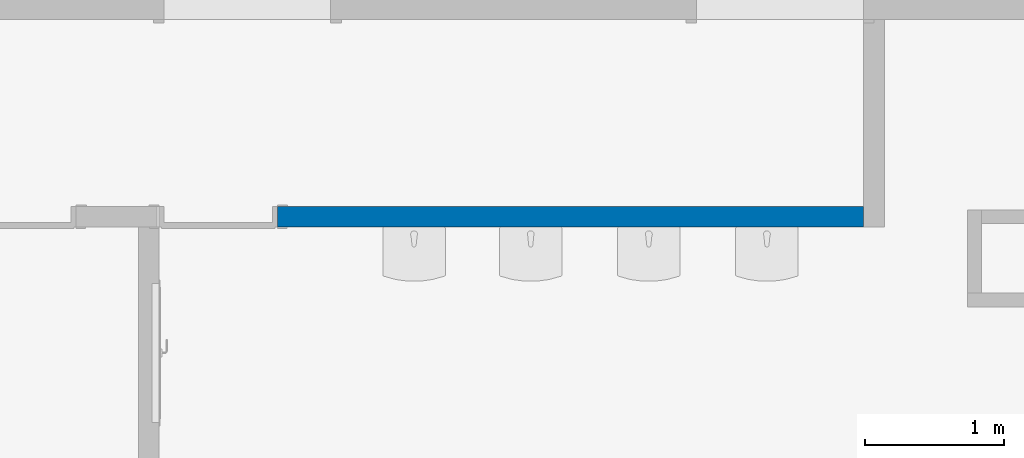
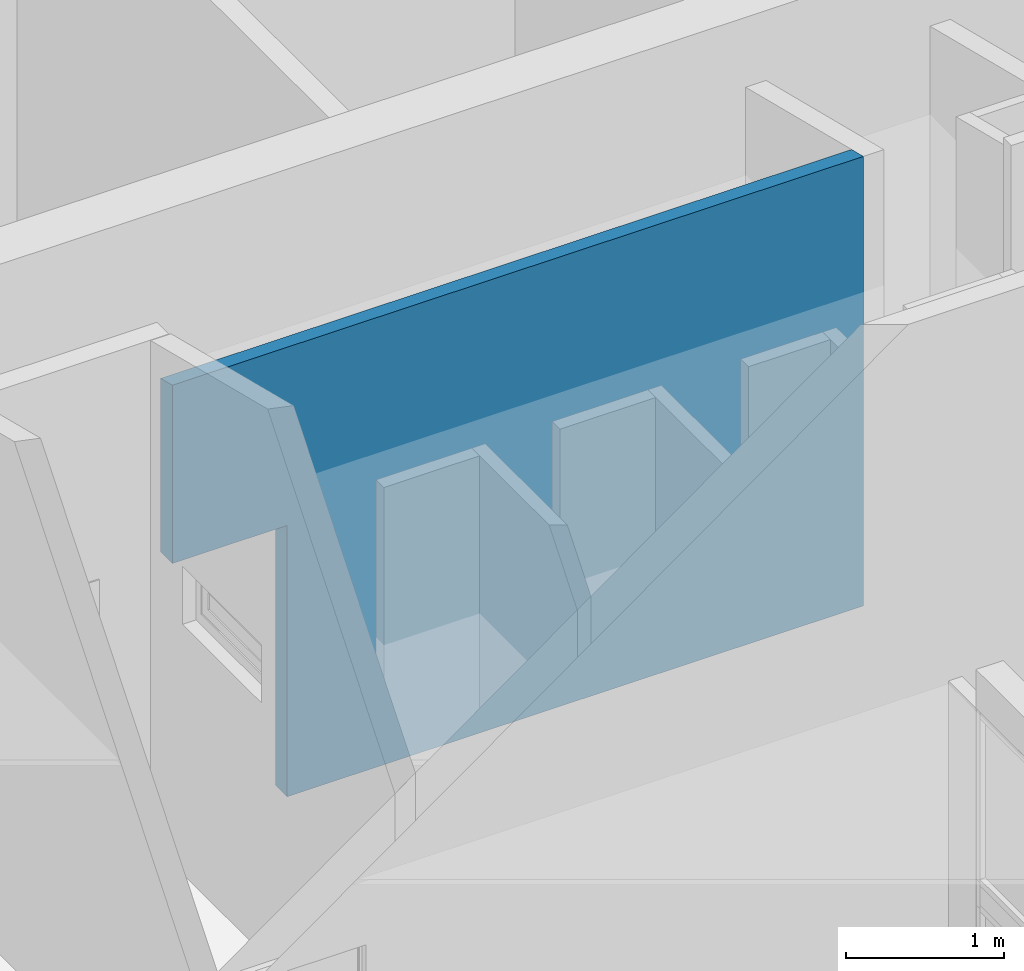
# One storey, part 130 of 153: 1 wall, 1 opening.
"""IFC4 building model written with IfcOpenShell, lengths in metres."""

from ifc_helpers import new_model, entity, si_unit, converted_unit, derived_unit, direction, frame, origin, place, context, subcontext, project, spatial, indexed_curve, outline, extrude, polygons, material, type_object, element, save


model = new_model("IFC4")

# Units and contexts
model_context = context("Model", 3, precision=1e-05, world=origin(), true_north=direction((6.123031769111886e-17, 1.0)))
body_context = subcontext(model_context, "Body", "Model", "MODEL_VIEW")
ifc_project = project(units=[si_unit("LENGTHUNIT", "METRE"), si_unit("AREAUNIT", "SQUARE_METRE"), si_unit("VOLUMEUNIT", "CUBIC_METRE"), converted_unit("PLANEANGLEUNIT", "DEGREE", entity("IfcRatioMeasure", 0.017453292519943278), si_unit("PLANEANGLEUNIT", "RADIAN"), dimensions=[0, 0, 0, 0, 0, 0, 0]), si_unit("MASSUNIT", "GRAM", prefix="KILO"), derived_unit("MASSDENSITYUNIT", [(si_unit("MASSUNIT", "GRAM", prefix="KILO"), 1), (si_unit("LENGTHUNIT", "METRE"), -3)]), derived_unit("MOMENTOFINERTIAUNIT", [(si_unit("LENGTHUNIT", "METRE"), 4)]), si_unit("TIMEUNIT", "SECOND"), si_unit("FREQUENCYUNIT", "HERTZ"), si_unit("THERMODYNAMICTEMPERATUREUNIT", "DEGREE_CELSIUS"), derived_unit("THERMALTRANSMITTANCEUNIT", [(si_unit("MASSUNIT", "GRAM", prefix="KILO"), 1), (si_unit("THERMODYNAMICTEMPERATUREUNIT", "KELVIN"), -1), (si_unit("TIMEUNIT", "SECOND"), -3)]), derived_unit("VOLUMETRICFLOWRATEUNIT", [(si_unit("LENGTHUNIT", "METRE"), 3), (si_unit("TIMEUNIT", "SECOND"), -1)]), derived_unit("MASSFLOWRATEUNIT", [(si_unit("MASSUNIT", "GRAM", prefix="KILO"), 1), (si_unit("TIMEUNIT", "SECOND"), -1)]), derived_unit("ROTATIONALFREQUENCYUNIT", [(si_unit("TIMEUNIT", "SECOND"), -1)]), si_unit("ELECTRICCURRENTUNIT", "AMPERE"), si_unit("ELECTRICVOLTAGEUNIT", "VOLT"), si_unit("POWERUNIT", "WATT"), si_unit("FORCEUNIT", "NEWTON", prefix="KILO"), si_unit("ILLUMINANCEUNIT", "LUX"), si_unit("LUMINOUSFLUXUNIT", "LUMEN"), si_unit("LUMINOUSINTENSITYUNIT", "CANDELA"), derived_unit("USERDEFINED", [(si_unit("MASSUNIT", "GRAM", prefix="KILO"), -1), (si_unit("LENGTHUNIT", "METRE"), -2), (si_unit("TIMEUNIT", "SECOND"), 3), (si_unit("LUMINOUSFLUXUNIT", "LUMEN"), 1)]), derived_unit("SOUNDPOWERUNIT", [(si_unit("MASSUNIT", "GRAM", prefix="KILO"), 1), (si_unit("LENGTHUNIT", "METRE"), 2), (si_unit("TIMEUNIT", "SECOND"), -3)]), derived_unit("SOUNDPRESSUREUNIT", [(si_unit("MASSUNIT", "GRAM", prefix="KILO"), 1), (si_unit("LENGTHUNIT", "METRE"), -1), (si_unit("TIMEUNIT", "SECOND"), -2)]), derived_unit("LINEARVELOCITYUNIT", [(si_unit("LENGTHUNIT", "METRE"), 1), (si_unit("TIMEUNIT", "SECOND"), -1)]), si_unit("PRESSUREUNIT", "PASCAL"), derived_unit("USERDEFINED", [(si_unit("LENGTHUNIT", "METRE"), -2), (si_unit("MASSUNIT", "GRAM", prefix="KILO"), 1), (si_unit("TIMEUNIT", "SECOND"), -2)]), derived_unit("LINEARFORCEUNIT", [(si_unit("MASSUNIT", "GRAM", prefix="KILO"), 1), (si_unit("LENGTHUNIT", "METRE"), 1), (si_unit("TIMEUNIT", "SECOND"), -2), (si_unit("LENGTHUNIT", "METRE"), -1)]), derived_unit("PLANARFORCEUNIT", [(si_unit("MASSUNIT", "GRAM", prefix="KILO"), 1), (si_unit("LENGTHUNIT", "METRE"), 1), (si_unit("TIMEUNIT", "SECOND"), -2), (si_unit("LENGTHUNIT", "METRE"), -2)])], contexts=[model_context])

# Site, building, storey
site_placement = place(None, origin())
site = spatial("IfcSite", under=ifc_project, at=site_placement, Name="Superficie", CompositionType="ELEMENT")
building_placement = place(site_placement, origin())
building = spatial("IfcBuilding", under=site, at=building_placement, CompositionType="ELEMENT")
storey_placement = place(building_placement, frame((0.0, 0.0, 3.5999999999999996)))
storey = spatial("IfcBuildingStorey", under=building, at=storey_placement, Name="Nivel 1", CompositionType="ELEMENT", Elevation=3.5999999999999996)

# Wall, opening
ifc_material = material(Name="Muro por defecto", Category="Varios")
wall_type = type_object("IfcWallType", Name="Muro básico:Por defecto - 15 cm 2", PredefinedType="STANDARD")
wall_placement = place(storey_placement, frame((11.801001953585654, 8.95082928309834, 0.5200000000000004), z_axis=(0.0, 0.0, 1.0), x_axis=(-1.0, 0.0, 0.0)))
wall = element("IfcWall", 1, at=wall_placement, inside=storey, type_object=wall_type, material=ifc_material, Name="Muro básico:Por defecto - 15 cm 2", ObjectType="Muro básico:Por defecto - 15 cm 2", PredefinedType="NOTDEFINED", context=body_context, shape_type="Tessellation", body=[
    polygons([(7.52411795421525e-16, -0.07499999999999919, 3.4429790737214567), (7.52411795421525e-16, -0.07499999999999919, -5.414335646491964e-16), (4.220000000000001, -0.07499999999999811, -5.414335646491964e-16), (4.220000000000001, -0.07499999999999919, 2.0999999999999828), (5.0600000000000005, -0.07499999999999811, 2.0999999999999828), (5.0600000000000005, -0.07499999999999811, 3.4429790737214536), (2.3601562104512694e-16, 0.07500000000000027, -5.414335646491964e-16), (2.3601562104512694e-16, 0.07500000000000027, 3.480169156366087), (5.06, 0.07500000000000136, 3.4801691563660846), (5.06, 0.07500000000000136, 2.0999999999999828), (4.22, 0.07499999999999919, 2.0999999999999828), (4.22, 0.07500000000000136, -5.414335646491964e-16)], [[[1, 2, 3, 4, 5, 6]], [[7, 8, 9, 10, 11, 12]], [[2, 7, 12, 3]], [[9, 6, 5, 10]], [[2, 1, 8, 7]], [[4, 11, 10, 5]], [[11, 4, 3, 12]], [[1, 6, 9, 8]]], closed=True),
])
opening_placement = place(wall_placement, frame((4.22, -0.07500000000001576, 0.0)))
element("IfcOpeningElement", 2, at=opening_placement, cuts=wall, Name="Puerta de 1 hoja:85 x 210 cm 2:1", PredefinedType="OPENING", context=body_context, shape_type="SweptSolid", body=[
    extrude(outline(indexed_curve([(0.0, 0.8499999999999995), (0.0, -1.1067271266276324e-30), (2.099999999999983, -1.1067271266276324e-30), (2.099999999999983, 0.8499999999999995), (0.0, 0.8499999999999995)], self_intersect=False)), frame((0.0, 0.0, 0.0), z_axis=(0.0, 1.0, 0.0), x_axis=(0.0, 0.0, 1.0)), (0.0, 0.0, 1.0), 0.14999999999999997),
])

save(model, "model.ifc")
